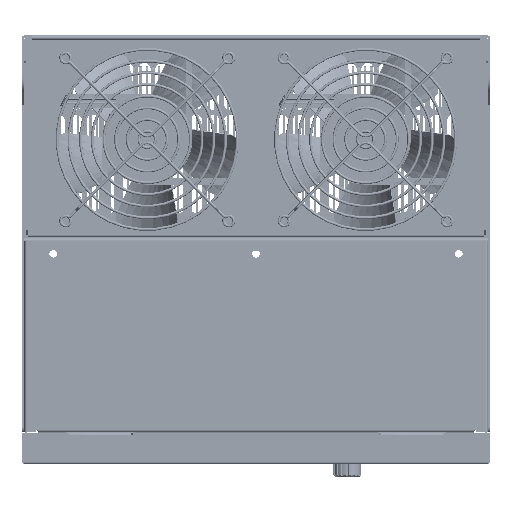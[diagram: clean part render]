
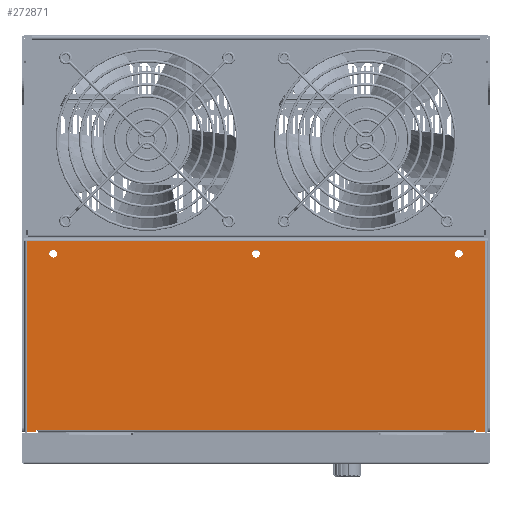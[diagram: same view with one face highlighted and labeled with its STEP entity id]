
A CAD part, left-side view. The second image highlights one B-rep face of the part: STEP entity #272871.
In plain terms, the highlighted planar face has unit normal (-1, 0, 0).
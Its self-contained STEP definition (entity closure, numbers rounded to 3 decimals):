
#267005=DIRECTION('',(0.,1.,0.));
#267006=VECTOR('',#267005,294.);
#267007=CARTESIAN_POINT('',(-250.,-147.,-131.7));
#267008=LINE('',#267007,#267006);
#267426=DIRECTION('',(0.,0.,-1.));
#267427=VECTOR('',#267426,122.8);
#267428=CARTESIAN_POINT('',(-250.,147.,-131.7));
#267429=LINE('',#267428,#267427);
#267509=DIRECTION('',(0.,0.,1.));
#267510=VECTOR('',#267509,1.1);
#267511=CARTESIAN_POINT('',(-250.,140.8,-254.5));
#267512=LINE('',#267511,#267510);
#267517=CARTESIAN_POINT('',(-250.,140.2,-253.4));
#267518=DIRECTION('',(-1.,0.,0.));
#267519=DIRECTION('',(0.,0.,1.));
#267520=AXIS2_PLACEMENT_3D('',#267517,#267518,#267519);
#267522=DIRECTION('',(0.,1.,0.));
#267523=VECTOR('',#267522,6.2);
#267524=CARTESIAN_POINT('',(-250.,140.8,-254.5));
#267525=LINE('',#267524,#267523);
#267526=DIRECTION('',(0.,1.,0.));
#267527=VECTOR('',#267526,6.2);
#267528=CARTESIAN_POINT('',(-250.,-147.,-254.5));
#267529=LINE('',#267528,#267527);
#267530=DIRECTION('',(0.,0.,1.));
#267531=VECTOR('',#267530,1.1);
#267532=CARTESIAN_POINT('',(-250.,-140.8,-254.5));
#267533=LINE('',#267532,#267531);
#267534=CARTESIAN_POINT('',(-250.,-140.2,-253.4));
#267535=DIRECTION('',(-1.,0.,0.));
#267536=DIRECTION('',(0.,-1.,0.));
#267537=AXIS2_PLACEMENT_3D('',#267534,#267535,#267536);
#267539=CARTESIAN_POINT('',(-250.,130.,-140.));
#267540=DIRECTION('',(-1.,0.,0.));
#267541=DIRECTION('',(0.,-1.,0.));
#267542=AXIS2_PLACEMENT_3D('',#267539,#267540,#267541);
#267544=CARTESIAN_POINT('',(-250.,130.,-140.));
#267545=DIRECTION('',(-1.,0.,0.));
#267546=DIRECTION('',(0.,1.,0.));
#267547=AXIS2_PLACEMENT_3D('',#267544,#267545,#267546);
#267549=CARTESIAN_POINT('',(-250.,-130.,-140.));
#267550=DIRECTION('',(-1.,0.,0.));
#267551=DIRECTION('',(0.,-1.,0.));
#267552=AXIS2_PLACEMENT_3D('',#267549,#267550,#267551);
#267554=CARTESIAN_POINT('',(-250.,-130.,-140.));
#267555=DIRECTION('',(-1.,0.,0.));
#267556=DIRECTION('',(0.,1.,0.));
#267557=AXIS2_PLACEMENT_3D('',#267554,#267555,#267556);
#267559=CARTESIAN_POINT('',(-250.,0.,-140.));
#267560=DIRECTION('',(-1.,0.,0.));
#267561=DIRECTION('',(0.,-1.,0.));
#267562=AXIS2_PLACEMENT_3D('',#267559,#267560,#267561);
#267564=CARTESIAN_POINT('',(-250.,0.,-140.));
#267565=DIRECTION('',(-1.,0.,0.));
#267566=DIRECTION('',(0.,1.,0.));
#267567=AXIS2_PLACEMENT_3D('',#267564,#267565,#267566);
#267569=DIRECTION('',(0.,-1.,0.));
#267570=VECTOR('',#267569,280.4);
#267571=CARTESIAN_POINT('',(-250.,140.2,-252.8));
#267572=LINE('',#267571,#267570);
#267648=DIRECTION('',(0.,0.,1.));
#267649=VECTOR('',#267648,122.8);
#267650=CARTESIAN_POINT('',(-250.,-147.,-254.5));
#267651=LINE('',#267650,#267649);
#270859=CARTESIAN_POINT('',(-250.,-147.,-131.7));
#270860=VERTEX_POINT('',#270859);
#270861=CARTESIAN_POINT('',(-250.,147.,-131.7));
#270862=VERTEX_POINT('',#270861);
#270951=CARTESIAN_POINT('',(-250.,147.,-254.5));
#270952=VERTEX_POINT('',#270951);
#270984=CARTESIAN_POINT('',(-250.,140.8,-254.5));
#270986=VERTEX_POINT('',#270984);
#270987=CARTESIAN_POINT('',(-250.,140.8,-253.4));
#270988=VERTEX_POINT('',#270987);
#270991=CARTESIAN_POINT('',(-250.,140.2,-252.8));
#270992=CARTESIAN_POINT('',(-250.,-140.2,-252.8));
#270993=VERTEX_POINT('',#270991);
#270994=VERTEX_POINT('',#270992);
#270995=CARTESIAN_POINT('',(-250.,-147.,-254.5));
#270996=VERTEX_POINT('',#270995);
#270997=CARTESIAN_POINT('',(-250.,-140.8,-254.5));
#270998=VERTEX_POINT('',#270997);
#270999=CARTESIAN_POINT('',(-250.,-140.8,-253.4));
#271000=VERTEX_POINT('',#270999);
#271001=CARTESIAN_POINT('',(-250.,127.5,-140.));
#271002=CARTESIAN_POINT('',(-250.,132.5,-140.));
#271003=VERTEX_POINT('',#271001);
#271004=VERTEX_POINT('',#271002);
#271005=CARTESIAN_POINT('',(-250.,-132.5,-140.));
#271006=CARTESIAN_POINT('',(-250.,-127.5,-140.));
#271007=VERTEX_POINT('',#271005);
#271008=VERTEX_POINT('',#271006);
#271009=CARTESIAN_POINT('',(-250.,-2.5,-140.));
#271010=CARTESIAN_POINT('',(-250.,2.5,-140.));
#271011=VERTEX_POINT('',#271009);
#271012=VERTEX_POINT('',#271010);
#272830=CARTESIAN_POINT('',(-250.,-150.,-275.));
#272831=DIRECTION('',(-1.,0.,0.));
#272832=DIRECTION('',(0.,0.,1.));
#272833=AXIS2_PLACEMENT_3D('',#272830,#272831,#272832);
#272834=PLANE('',#272833);
#272836=ORIENTED_EDGE('',*,*,#272835,.F.);
#272838=ORIENTED_EDGE('',*,*,#272837,.T.);
#272839=ORIENTED_EDGE('',*,*,#272813,.F.);
#272840=ORIENTED_EDGE('',*,*,#272796,.T.);
#272841=ORIENTED_EDGE('',*,*,#272624,.F.);
#272842=ORIENTED_EDGE('',*,*,#271766,.F.);
#272844=ORIENTED_EDGE('',*,*,#272843,.F.);
#272846=ORIENTED_EDGE('',*,*,#272845,.T.);
#272848=ORIENTED_EDGE('',*,*,#272847,.T.);
#272850=ORIENTED_EDGE('',*,*,#272849,.T.);
#272851=EDGE_LOOP('',(#272836,#272838,#272839,#272840,#272841,#272842,#272844,
#272846,#272848,#272850));
#272852=FACE_OUTER_BOUND('',#272851,.F.);
#272854=ORIENTED_EDGE('',*,*,#272853,.T.);
#272856=ORIENTED_EDGE('',*,*,#272855,.T.);
#272857=EDGE_LOOP('',(#272854,#272856));
#272858=FACE_BOUND('',#272857,.F.);
#272860=ORIENTED_EDGE('',*,*,#272859,.T.);
#272862=ORIENTED_EDGE('',*,*,#272861,.T.);
#272863=EDGE_LOOP('',(#272860,#272862));
#272864=FACE_BOUND('',#272863,.F.);
#272866=ORIENTED_EDGE('',*,*,#272865,.T.);
#272868=ORIENTED_EDGE('',*,*,#272867,.T.);
#272869=EDGE_LOOP('',(#272866,#272868));
#272870=FACE_BOUND('',#272869,.F.);
#267521=CIRCLE('',#267520,0.6);
#267538=CIRCLE('',#267537,0.6);
#267543=CIRCLE('',#267542,2.5);
#267548=CIRCLE('',#267547,2.5);
#267553=CIRCLE('',#267552,2.5);
#267558=CIRCLE('',#267557,2.5);
#267563=CIRCLE('',#267562,2.5);
#267568=CIRCLE('',#267567,2.5);
#271766=EDGE_CURVE('',#270860,#270862,#267008,.T.);
#272624=EDGE_CURVE('',#270862,#270952,#267429,.T.);
#272796=EDGE_CURVE('',#270986,#270952,#267525,.T.);
#272813=EDGE_CURVE('',#270986,#270988,#267512,.T.);
#272835=EDGE_CURVE('',#270993,#270994,#267572,.T.);
#272837=EDGE_CURVE('',#270993,#270988,#267521,.T.);
#272843=EDGE_CURVE('',#270996,#270860,#267651,.T.);
#272845=EDGE_CURVE('',#270996,#270998,#267529,.T.);
#272847=EDGE_CURVE('',#270998,#271000,#267533,.T.);
#272849=EDGE_CURVE('',#271000,#270994,#267538,.T.);
#272853=EDGE_CURVE('',#271003,#271004,#267543,.T.);
#272855=EDGE_CURVE('',#271004,#271003,#267548,.T.);
#272859=EDGE_CURVE('',#271007,#271008,#267553,.T.);
#272861=EDGE_CURVE('',#271008,#271007,#267558,.T.);
#272865=EDGE_CURVE('',#271011,#271012,#267563,.T.);
#272867=EDGE_CURVE('',#271012,#271011,#267568,.T.);
#272871=ADVANCED_FACE('',(#272852,#272858,#272864,#272870),#272834,.T.);
